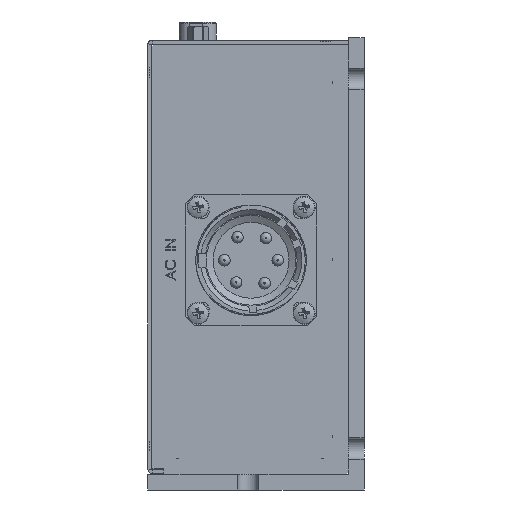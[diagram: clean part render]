
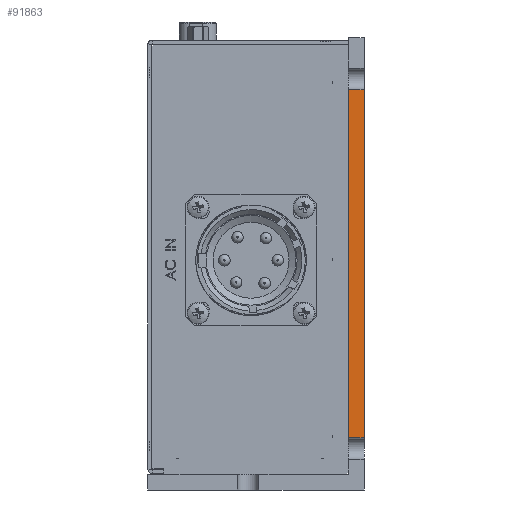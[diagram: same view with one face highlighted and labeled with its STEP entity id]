
A CAD part, left-side view. The second image highlights one B-rep face of the part: STEP entity #91863.
In plain terms, the highlighted planar face has unit normal (-1, 0, 0).
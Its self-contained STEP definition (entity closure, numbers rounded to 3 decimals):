
#5988 = CARTESIAN_POINT ( 'NONE',  ( -112., 0., 13.25 ) ) ;
#13002 = DIRECTION ( 'NONE',  ( -1., 0., 0. ) ) ;
#15518 = DIRECTION ( 'NONE',  ( 0., 0., -1. ) ) ;
#24492 = CARTESIAN_POINT ( 'NONE',  ( -112., 0., 101.75 ) ) ;
#24662 = VECTOR ( 'NONE', #113728, 1000. ) ;
#27226 = VECTOR ( 'NONE', #105428, 1000. ) ;
#27828 = VECTOR ( 'NONE', #15518, 1000. ) ;
#28174 = CARTESIAN_POINT ( 'NONE',  ( -112., 4., 0. ) ) ;
#28378 = ORIENTED_EDGE ( 'NONE', *, *, #97500, .F. ) ;
#29207 = VECTOR ( 'NONE', #69612, 1000. ) ;
#29883 = ORIENTED_EDGE ( 'NONE', *, *, #31492, .F. ) ;
#31492 = EDGE_CURVE ( 'NONE', #96224, #91459, #165169, .T. ) ;
#37475 = ORIENTED_EDGE ( 'NONE', *, *, #130196, .T. ) ;
#41456 = CARTESIAN_POINT ( 'NONE',  ( -112., 0., 0. ) ) ;
#47369 = CARTESIAN_POINT ( 'NONE',  ( -112., 4., 13.25 ) ) ;
#59536 = LINE ( 'NONE', #134551, #29207 ) ;
#63931 = EDGE_CURVE ( 'NONE', #81000, #118984, #126230, .T. ) ;
#69612 = DIRECTION ( 'NONE',  ( 0., 1., 0. ) ) ;
#81000 = VERTEX_POINT ( 'NONE', #128921 ) ;
#88642 = AXIS2_PLACEMENT_3D ( 'NONE', #90275, #13002, #103238 ) ;
#90275 = CARTESIAN_POINT ( 'NONE',  ( -112., 55., 0. ) ) ;
#91459 = VERTEX_POINT ( 'NONE', #5988 ) ;
#91863 = ADVANCED_FACE ( 'NONE', ( #164009 ), #154642, .T. ) ;
#96224 = VERTEX_POINT ( 'NONE', #24492 ) ;
#97500 = EDGE_CURVE ( 'NONE', #91459, #118984, #101405, .T. ) ;
#100749 = CARTESIAN_POINT ( 'NONE',  ( -112., -0.001, 13.25 ) ) ;
#101405 = LINE ( 'NONE', #100749, #24662 ) ;
#103238 = DIRECTION ( 'NONE',  ( 0., 0., 1. ) ) ;
#105428 = DIRECTION ( 'NONE',  ( 0., 0., -1. ) ) ;
#113728 = DIRECTION ( 'NONE',  ( 0., 1., 0. ) ) ;
#118984 = VERTEX_POINT ( 'NONE', #47369 ) ;
#126230 = LINE ( 'NONE', #28174, #27226 ) ;
#128921 = CARTESIAN_POINT ( 'NONE',  ( -112., 4., 101.75 ) ) ;
#130196 = EDGE_CURVE ( 'NONE', #96224, #81000, #59536, .T. ) ;
#132431 = ORIENTED_EDGE ( 'NONE', *, *, #63931, .T. ) ;
#134551 = CARTESIAN_POINT ( 'NONE',  ( -112., -0.001, 101.75 ) ) ;
#154642 = PLANE ( 'NONE',  #88642 ) ;
#164009 = FACE_OUTER_BOUND ( 'NONE', #164334, .T. ) ;
#164334 = EDGE_LOOP ( 'NONE', ( #28378, #29883, #37475, #132431 ) ) ;
#165169 = LINE ( 'NONE', #41456, #27828 ) ;
